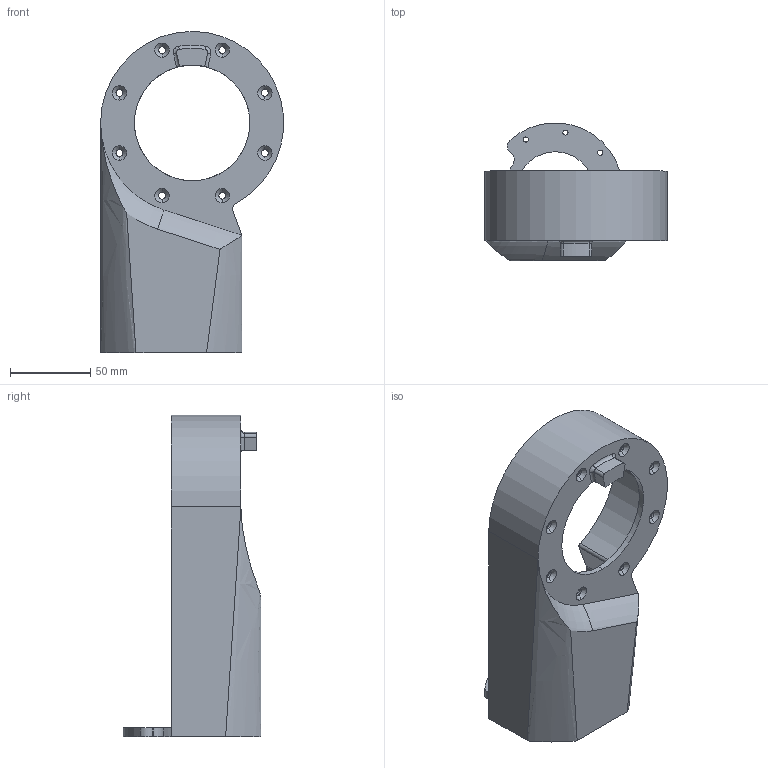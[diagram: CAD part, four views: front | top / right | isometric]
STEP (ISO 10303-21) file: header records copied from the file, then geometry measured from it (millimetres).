
FILE_DESCRIPTION((''),'2;1');
FILE_NAME('KD-C-201R_UPBICEPDRIVE_1','2025-07-12T14:02:16',('Administrator'),(''),'CREO PARAMETRIC BY PTC INC, 2022073','CREO PARAMETRIC BY PTC INC, 2022073','');
FILE_SCHEMA(('CONFIG_CONTROL_DESIGN'));
Length unit declared in the file: millimetre
Products named in the file (1): KD-C-201R_UPBICEPDRIVE_1
Bounding box: 113.82 x 85.9 x 200 mm (x, y, z)
Volume: 114060.1 mm3; surface area: 82289.5 mm2
Topology: 1 solids, 1 shells, 205 faces, 559 edges, 358 vertices
Faces by surface type: cylinder 96, cone 38, plane 36, bspline 25, extrusion 3, torus 3, revolution 2, sphere 2
Entity records: 11510 total; most frequent: CARTESIAN_POINT 6254, ORIENTED_EDGE 1100, DIRECTION 1092, EDGE_CURVE 550, AXIS2_PLACEMENT_3D 437, VERTEX_POINT 358, CIRCLE 262, EDGE_LOOP 250
